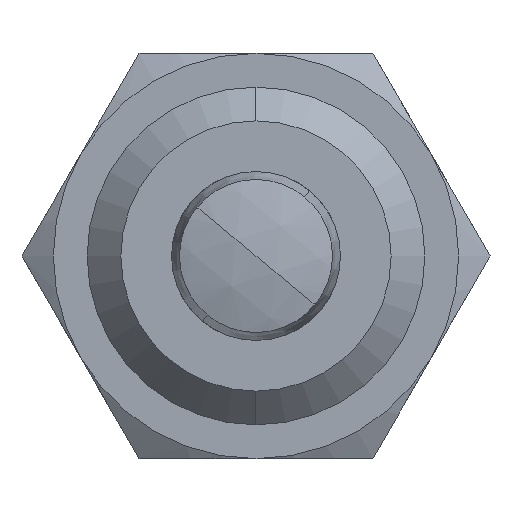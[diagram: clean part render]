
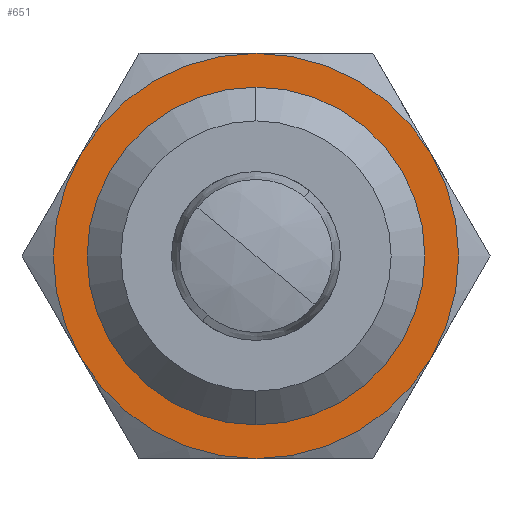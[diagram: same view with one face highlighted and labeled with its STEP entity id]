
A CAD part, front view. The second image highlights one B-rep face of the part: STEP entity #651.
In plain terms, the highlighted planar face has unit normal (0, -1, 0).
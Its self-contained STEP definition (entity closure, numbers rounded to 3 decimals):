
#629 = ORIENTED_EDGE ( 'NONE', *, *, #640, .T. ) ;
#632 = ORIENTED_EDGE ( 'NONE', *, *, #633, .F. ) ;
#633 = EDGE_CURVE ( 'NONE', #657, #643, #1908, .T. ) ;
#635 = ORIENTED_EDGE ( 'NONE', *, *, #660, .F. ) ;
#638 = EDGE_LOOP ( 'NONE', ( #647, #635, #654, #648, #644, #632 ) ) ;
#639 = EDGE_CURVE ( 'NONE', #649, #657, #1952, .T. ) ;
#640 = EDGE_CURVE ( 'NONE', #4884, #4879, #1948, .T. ) ;
#641 = EDGE_CURVE ( 'NONE', #642, #656, #1943, .T. ) ;
#642 = VERTEX_POINT ( 'NONE', #1938 ) ;
#643 = VERTEX_POINT ( 'NONE', #1937 ) ;
#644 = ORIENTED_EDGE ( 'NONE', *, *, #645, .T. ) ;
#645 = EDGE_CURVE ( 'NONE', #642, #643, #1935, .T. ) ;
#647 = ORIENTED_EDGE ( 'NONE', *, *, #639, .F. ) ;
#648 = ORIENTED_EDGE ( 'NONE', *, *, #641, .F. ) ;
#649 = VERTEX_POINT ( 'NONE', #1992 ) ;
#651 = ADVANCED_FACE ( 'NONE', ( #1986, #1985 ), #1984, .F. ) ;
#654 = ORIENTED_EDGE ( 'NONE', *, *, #655, .F. ) ;
#655 = EDGE_CURVE ( 'NONE', #656, #661, #1982, .T. ) ;
#656 = VERTEX_POINT ( 'NONE', #1974 ) ;
#657 = VERTEX_POINT ( 'NONE', #1973 ) ;
#658 = EDGE_LOOP ( 'NONE', ( #659, #629 ) ) ;
#659 = ORIENTED_EDGE ( 'NONE', *, *, #4883, .T. ) ;
#660 = EDGE_CURVE ( 'NONE', #661, #649, #1972, .T. ) ;
#661 = VERTEX_POINT ( 'NONE', #1967 ) ;
#1180 = DIRECTION ( 'NONE',  ( 0., -1., 0. ) ) ;
#1682 = DIRECTION ( 'NONE',  ( 0., 0., -1. ) ) ;
#1904 = DIRECTION ( 'NONE',  ( 0., 0., 1. ) ) ;
#1905 = DIRECTION ( 'NONE',  ( 0., 1., 0. ) ) ;
#1906 = CARTESIAN_POINT ( 'NONE',  ( 0., 0., 0. ) ) ;
#1907 = AXIS2_PLACEMENT_3D ( 'NONE', #1906, #1905, #1904 ) ;
#1908 = CIRCLE ( 'NONE', #1907, 6. ) ;
#1933 = CARTESIAN_POINT ( 'NONE',  ( 0., 0., 0. ) ) ;
#1934 = AXIS2_PLACEMENT_3D ( 'NONE', #1933, #1180, #1682 ) ;
#1935 = CIRCLE ( 'NONE', #1934, 6. ) ;
#1937 = CARTESIAN_POINT ( 'NONE',  ( 5.196, 0., -3. ) ) ;
#1938 = CARTESIAN_POINT ( 'NONE',  ( 0., 0., -6. ) ) ;
#1939 = DIRECTION ( 'NONE',  ( 0., 0., 1. ) ) ;
#1940 = DIRECTION ( 'NONE',  ( 0., 1., 0. ) ) ;
#1941 = CARTESIAN_POINT ( 'NONE',  ( 0., 0., 0. ) ) ;
#1942 = AXIS2_PLACEMENT_3D ( 'NONE', #1941, #1940, #1939 ) ;
#1943 = CIRCLE ( 'NONE', #1942, 6. ) ;
#1944 = DIRECTION ( 'NONE',  ( 0., 0., 1. ) ) ;
#1945 = DIRECTION ( 'NONE',  ( 0., 1., 0. ) ) ;
#1946 = CARTESIAN_POINT ( 'NONE',  ( 0., 0., 0. ) ) ;
#1947 = AXIS2_PLACEMENT_3D ( 'NONE', #1946, #1945, #1944 ) ;
#1948 = CIRCLE ( 'NONE', #1947, 5. ) ;
#1949 = DIRECTION ( 'NONE',  ( 0., 0., 1. ) ) ;
#1950 = DIRECTION ( 'NONE',  ( 0., 1., 0. ) ) ;
#1951 = AXIS2_PLACEMENT_3D ( 'NONE', #1956, #1950, #1949 ) ;
#1952 = CIRCLE ( 'NONE', #1951, 6. ) ;
#1956 = CARTESIAN_POINT ( 'NONE',  ( 0., 0., 0. ) ) ;
#1967 = CARTESIAN_POINT ( 'NONE',  ( -5.196, 0., 3. ) ) ;
#1968 = DIRECTION ( 'NONE',  ( 0., 0., 1. ) ) ;
#1969 = DIRECTION ( 'NONE',  ( 0., 1., 0. ) ) ;
#1970 = CARTESIAN_POINT ( 'NONE',  ( 0., 0., 0. ) ) ;
#1971 = AXIS2_PLACEMENT_3D ( 'NONE', #1970, #1969, #1968 ) ;
#1972 = CIRCLE ( 'NONE', #1971, 6. ) ;
#1973 = CARTESIAN_POINT ( 'NONE',  ( 5.196, 0., 3. ) ) ;
#1974 = CARTESIAN_POINT ( 'NONE',  ( -5.196, 0., -3. ) ) ;
#1975 = DIRECTION ( 'NONE',  ( 0., 0., 1. ) ) ;
#1976 = DIRECTION ( 'NONE',  ( 0., 1., 0. ) ) ;
#1977 = CARTESIAN_POINT ( 'NONE',  ( 0., 0., 0. ) ) ;
#1978 = AXIS2_PLACEMENT_3D ( 'NONE', #1977, #1976, #1975 ) ;
#1979 = DIRECTION ( 'NONE',  ( 0., 0., 1. ) ) ;
#1980 = DIRECTION ( 'NONE',  ( 0., 1., 0. ) ) ;
#1981 = CARTESIAN_POINT ( 'NONE',  ( 3.464, 0., -6. ) ) ;
#1982 = CIRCLE ( 'NONE', #1978, 6. ) ;
#1983 = AXIS2_PLACEMENT_3D ( 'NONE', #1981, #1980, #1979 ) ;
#1984 = PLANE ( 'NONE',  #1983 ) ;
#1985 = FACE_OUTER_BOUND ( 'NONE', #638, .T. ) ;
#1986 = FACE_BOUND ( 'NONE', #658, .T. ) ;
#1992 = CARTESIAN_POINT ( 'NONE',  ( 0., 0., 6. ) ) ;
#3508 = CARTESIAN_POINT ( 'NONE',  ( 0., 0., -5. ) ) ;
#3509 = DIRECTION ( 'NONE',  ( 0., 0., 1. ) ) ;
#3510 = DIRECTION ( 'NONE',  ( 0., 1., 0. ) ) ;
#3511 = CARTESIAN_POINT ( 'NONE',  ( 0., 0., 0. ) ) ;
#3512 = AXIS2_PLACEMENT_3D ( 'NONE', #3511, #3510, #3509 ) ;
#3513 = CIRCLE ( 'NONE', #3512, 5. ) ;
#3518 = CARTESIAN_POINT ( 'NONE',  ( 0., 0., 5. ) ) ;
#4879 = VERTEX_POINT ( 'NONE', #3518 ) ;
#4883 = EDGE_CURVE ( 'NONE', #4879, #4884, #3513, .T. ) ;
#4884 = VERTEX_POINT ( 'NONE', #3508 ) ;
